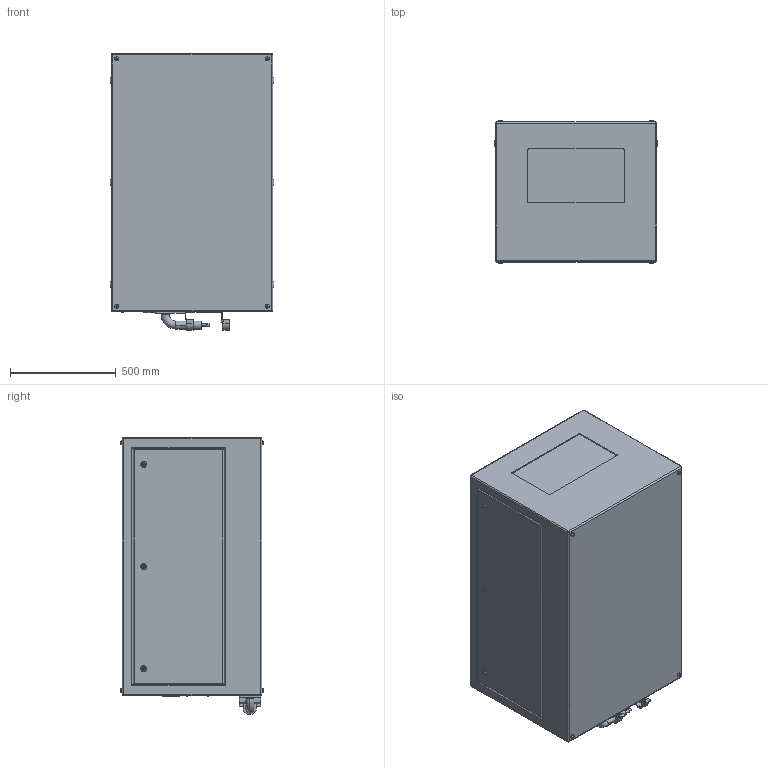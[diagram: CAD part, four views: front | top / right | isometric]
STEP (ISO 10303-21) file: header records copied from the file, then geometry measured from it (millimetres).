
FILE_DESCRIPTION (( 'STEP AP214' ), '1' );
FILE_NAME ('Oasis 59.204.L R02.STEP', '2022-09-12T23:37:45', ( '' ), ( '' ), 'SwSTEP 2.0', 'SolidWorks 2020', '' );
FILE_SCHEMA (( 'AUTOMOTIVE_DESIGN' ));
Length unit declared in the file: inch
Products named in the file (1): Oasis 59.204.L R02
Bounding box: 774.7 x 677.67 x 1308.1 mm (x, y, z)
Volume: 612856926.2 mm3; surface area: 4945161.7 mm2
Topology: 3 solids, 9 shells, 480 faces, 1099 edges, 696 vertices
Faces by surface type: plane 261, cylinder 169, torus 42, bspline 8
Entity records: 18195 total; most frequent: CARTESIAN_POINT 2788, DIRECTION 2391, ORIENTED_EDGE 2182, EDGE_CURVE 1091, AXIS2_PLACEMENT_3D 859, VERTEX_POINT 696, LINE 673, VECTOR 673
